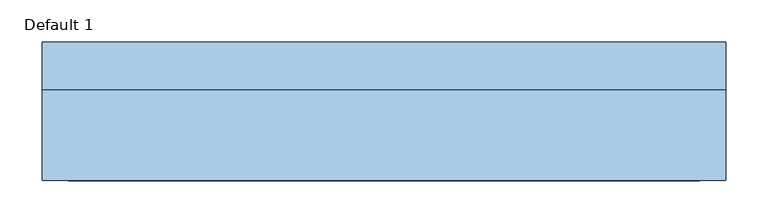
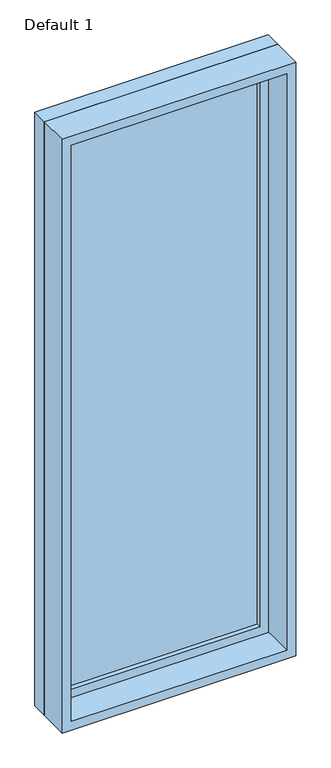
"""IFC4 building model written with IfcOpenShell, lengths in millimetres: window geometry, Planitar-Fixed : Default 1."""

from ifc_helpers import new_model, si_unit, frame, origin, place, context, project, spatial, polyline, outline, extrude, source, transform, mapped, element, save


def default_1_7b61a2f6(model_context):
    return source(origin(), model_context, "Body", "SweptSolid", [
        extrude(outline(polyline([(3079.8, -387.4), (933.4, -387.4), (933.4, 387.4), (3079.8, 387.4), (3079.8, -387.4)]), holes=[polyline([(3035.8, -343.4), (3035.8, 343.4), (977.4, 343.4), (977.4, -343.4), (3035.8, -343.4)])]), frame((0.0, 38.85, 0.0), z_axis=(0.0, 1.0, 0.0), x_axis=(0.0, 0.0, 1.0)), (0.0, 0.0, 1.0), 44.0),
        extrude(outline(polyline([(3098.8, -406.4), (914.4, -406.4), (914.4, 406.4), (3098.8, 406.4), (3098.8, -406.4)]), holes=[polyline([(3079.8, -387.4), (3079.8, 387.4), (933.4, 387.4), (933.4, -387.4), (3079.8, -387.4)])]), frame((0.0, 38.85, 0.0), z_axis=(0.0, 1.0, 0.0), x_axis=(0.0, 0.0, 1.0)), (0.0, 0.0, 1.0), 56.7),
        extrude(outline(polyline([(3098.8, -406.4), (914.4, -406.4), (914.4, 406.4), (3098.8, 406.4), (3098.8, -406.4)]), holes=[polyline([(3066.8, -374.4), (3066.8, 374.4), (946.4, 374.4), (946.4, -374.4), (3066.8, -374.4)])]), frame((0.0, -69.55, 0.0), z_axis=(0.0, 1.0, 0.0), x_axis=(0.0, 0.0, 1.0)), (0.0, 0.0, 1.0), 108.4),
        extrude(outline(polyline([(-343.4, 66.85), (343.4, 66.85), (343.4, 54.85), (-343.4, 54.85), (-343.4, 66.85)])), frame((0.0, 0.0, 977.4), z_axis=(0.0, 0.0, 1.0), x_axis=(1.0, 0.0, 0.0)), (0.0, 0.0, 1.0), 2058.4),
    ])


if __name__ == "__main__":
    model = new_model("IFC4")
    model_context = context("Model", 3, world=origin())
    ifc_project = project(units=[si_unit("LENGTHUNIT", "METRE", prefix="MILLI")], contexts=[model_context])
    site = spatial("IfcSite", under=ifc_project)
    building = spatial("IfcBuilding", under=site)
    placement = place(None, origin())
    default_1_shape = default_1_7b61a2f6(model_context)
    element("IfcWindow", 1, ObjectType="Planitar-Fixed : Default 1", at=placement, inside=building, context=model_context, shape_type="MappedRepresentation", body=[
        mapped(default_1_shape, transform((0.0, 0.0, 0.0), x_axis=(1.0, 0.0, 0.0), y_axis=(0.0, 1.0, 0.0), z_axis=(0.0, 0.0, 1.0))),
    ])
    save(model, "model.ifc")
